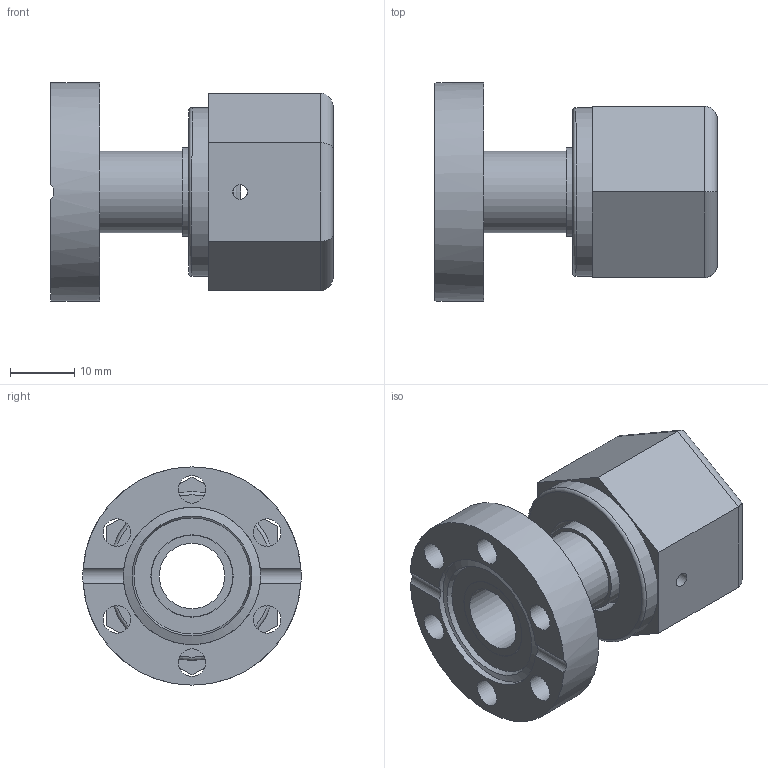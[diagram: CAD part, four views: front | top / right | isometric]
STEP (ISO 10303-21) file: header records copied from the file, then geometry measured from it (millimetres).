
FILE_DESCRIPTION( ( 'Unknown' ), '1' );
FILE_NAME( 'X:/Daten ( aktueller Bestand )/Projekte und Zeichnungen/Solid Edge/STP-Dateien/CF-Teile/7561-12.stp', 'Unknown', ( 'Unknown' ), ( 'Unknown' ), 'PSStep 14.0', 'Unknown', ' ' );
FILE_SCHEMA( ( 'AUTOMOTIVE_DESIGN { 1 0 10303 214 1 1 1 1 }' ) );
Length unit declared in the file: millimetre
Products named in the file (4): Assem1; 1841-12.1; 1841-12.3; 7561-12.1
Assembly tree (3 placements, depth 2):
  Assem1
    1841-12.1
    1841-12.3
    7561-12.1
Bounding box: 44 x 34 x 34 mm (x, y, z)
Volume: 14741.1 mm3; surface area: 9913.7 mm2
Topology: 3 solids, 3 shells, 53 faces, 128 edges, 85 vertices
Faces by surface type: cylinder 27, plane 19, cone 4, torus 3
Full cylindrical faces by diameter (mm): 2.3 x2, 4.3 x6, 10.2 x1, 12.7 x1, 12.8 x1, 13.833 x1, 15.5 x1, 18.4 x1, 18.631 x1, 21 x1, 21.4 x1, 26.3 x1, 34 x1
Entity records: 1940 total; most frequent: CARTESIAN_POINT 331, DIRECTION 246, ORIENTED_EDGE 172, AXIS2_PLACEMENT_3D 109, EDGE_LOOP 106, EDGE_CURVE 86, FACE_OUTER_BOUND 75, VERTEX_POINT 70
